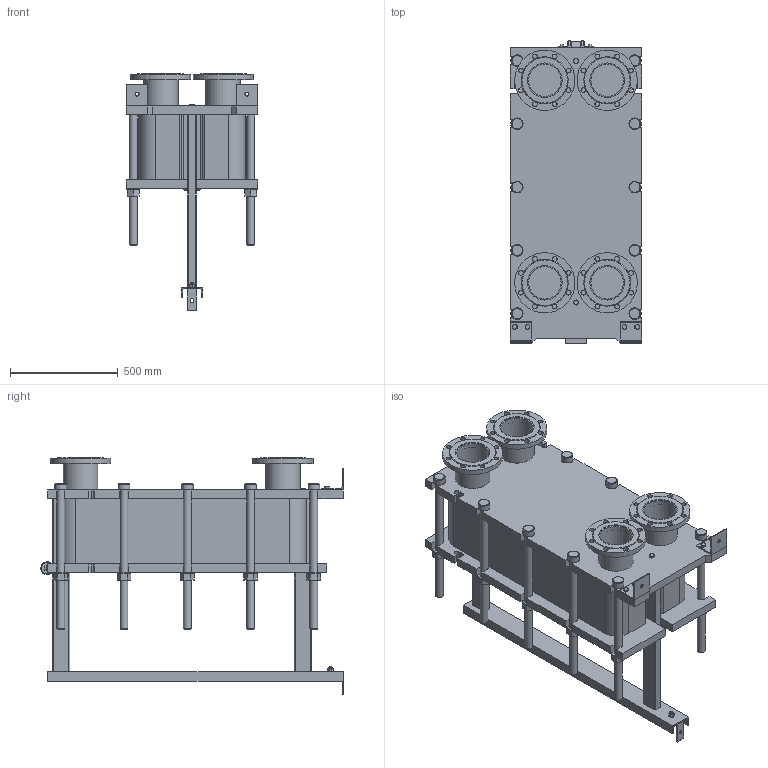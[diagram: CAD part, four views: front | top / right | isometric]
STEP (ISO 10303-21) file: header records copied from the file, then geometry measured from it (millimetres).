
FILE_DESCRIPTION(/* description */ (''),/* implementation_level */ '2;1');
FILE_NAME(/* name */ 'C:\Users\zhuro\Desktop\ENCO\TO\ЭН-041\ЭН-0,5-041-88-1.stp',/* time_stamp */ '2022-06-06T10:56:59+03:00',/* author */ ('zhuro'),/* organization */ (''),/* preprocessor_version */ 'ST-DEVELOPER v18.1',/* originating_system */ 'Autodesk Inventor 2022',/* authorisation */ '');
FILE_SCHEMA (('AUTOMOTIVE_DESIGN { 1 0 10303 214 3 1 1 }'));
Length unit declared in the file: millimetre
Products named in the file (1): ЭН-0,5-041-88-1
Bounding box: 610 x 1406.5 x 1100 mm (x, y, z)
Volume: 250385839 mm3; surface area: 8759921 mm2
Topology: 52 solids, 52 shells, 711 faces, 1696 edges, 1094 vertices
Faces by surface type: plane 487, cylinder 177, cone 41, torus 6
Full cylindrical faces by diameter (mm): 8 x4, 10 x2, 16 x8, 18 x3, 22 x32, 36 x24, 50 x1, 54 x10, 60 x12, 151 x4, 161 x8, 280 x4
Entity records: 22667 total; most frequent: CARTESIAN_POINT 5230, DIRECTION 3644, ORIENTED_EDGE 3392, EDGE_CURVE 1696, AXIS2_PLACEMENT_3D 1272, LINE 1100, VECTOR 1100, VERTEX_POINT 1094
